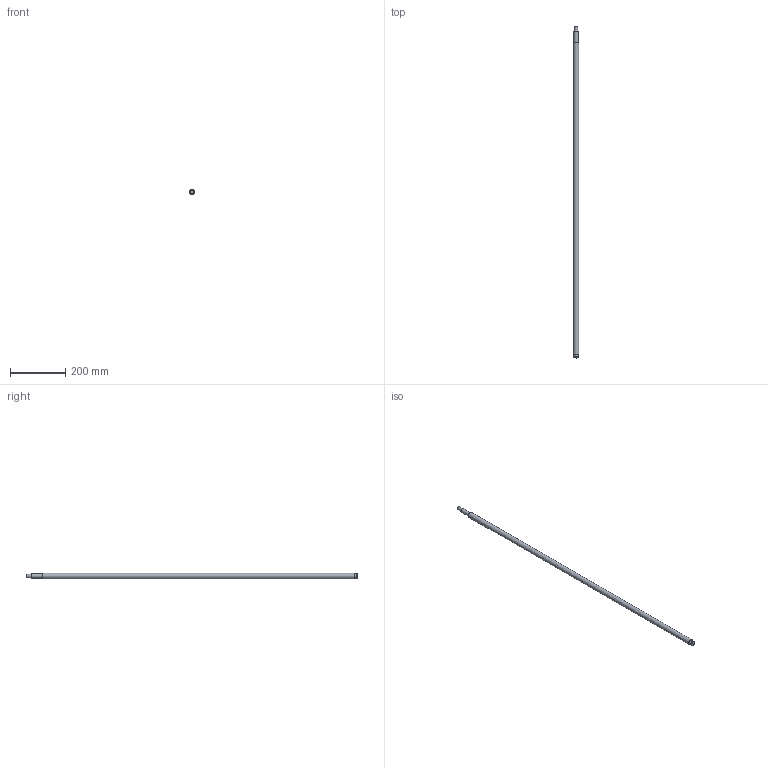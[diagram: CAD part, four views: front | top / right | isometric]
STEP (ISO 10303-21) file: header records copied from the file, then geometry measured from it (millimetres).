
FILE_DESCRIPTION(/* description */ (''),/* implementation_level */ '2;1');
FILE_NAME(/* name */ 'C:\Users\David\Desktop\stepFiles\Profilfuehrung\KUS2010x1200.stp',/* time_stamp */ '2018-06-24T15:12:50+02:00',/* author */ ('David'),/* organization */ (''),/* preprocessor_version */ 'ST-DEVELOPER v17',/* originating_system */ 'Autodesk Inventor 2019',/* authorisation */ '');
FILE_SCHEMA (('AUTOMOTIVE_DESIGN { 1 0 10303 214 3 1 1 }'));
Length unit declared in the file: millimetre
Products named in the file (1): SFU2005xvaiabel
Bounding box: 20 x 1200 x 20 mm (x, y, z)
Volume: 365656.4 mm3; surface area: 74695.6 mm2
Topology: 1 solids, 1 shells, 15 faces, 34 edges, 26 vertices
Faces by surface type: plane 7, cylinder 6, cone 2
Full cylindrical faces by diameter (mm): 12 x1, 14.3 x1, 15 x3, 20 x1
Entity records: 493 total; most frequent: DIRECTION 92, CARTESIAN_POINT 76, ORIENTED_EDGE 68, AXIS2_PLACEMENT_3D 42, EDGE_CURVE 34, CIRCLE 26, VERTEX_POINT 26, EDGE_LOOP 20
